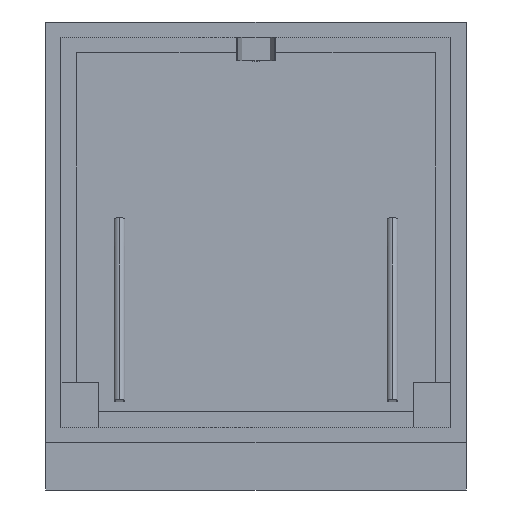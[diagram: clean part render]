
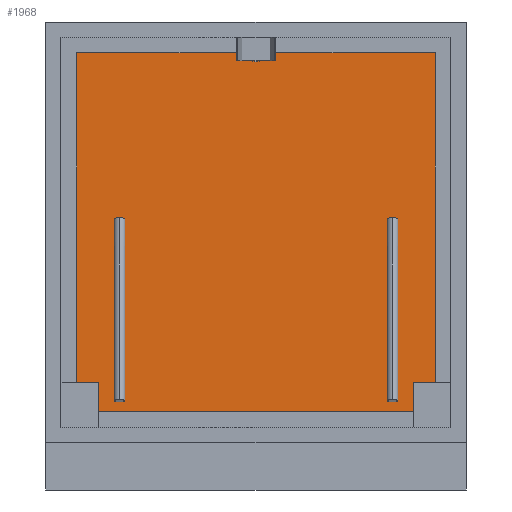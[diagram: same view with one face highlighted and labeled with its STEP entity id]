
A CAD part, front view. The second image highlights one B-rep face of the part: STEP entity #1968.
In plain terms, the highlighted planar face has unit normal (0, -1, 0).
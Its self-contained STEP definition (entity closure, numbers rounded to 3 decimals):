
#304=DIRECTION('',(0.,0.,-1.));
#305=VECTOR('',#304,75.);
#306=CARTESIAN_POINT('',(-405.,-86.,-385.));
#307=LINE('',#306,#305);
#380=DIRECTION('',(-1.,0.,0.));
#381=VECTOR('',#380,55.);
#382=CARTESIAN_POINT('',(-405.,-86.,-385.));
#383=LINE('',#382,#381);
#400=CARTESIAN_POINT('',(0.,-86.,465.));
#401=DIRECTION('',(0.,1.,0.));
#402=DIRECTION('',(0.984,0.,-0.179));
#403=AXIS2_PLACEMENT_3D('',#400,#401,#402);
#405=DIRECTION('',(-1.,0.,0.));
#406=VECTOR('',#405,432.45);
#407=CARTESIAN_POINT('',(460.,-86.,460.));
#408=LINE('',#407,#406);
#409=DIRECTION('',(0.,0.,1.));
#410=VECTOR('',#409,845.);
#411=CARTESIAN_POINT('',(460.,-86.,-385.));
#412=LINE('',#411,#410);
#413=DIRECTION('',(1.,0.,0.));
#414=VECTOR('',#413,810.);
#415=CARTESIAN_POINT('',(-405.,-86.,-460.));
#416=LINE('',#415,#414);
#417=DIRECTION('',(0.,0.,-1.));
#418=VECTOR('',#417,845.);
#419=CARTESIAN_POINT('',(-460.,-86.,460.));
#420=LINE('',#419,#418);
#421=DIRECTION('',(-1.,0.,0.));
#422=VECTOR('',#421,432.45);
#423=CARTESIAN_POINT('',(-27.55,-86.,460.));
#424=LINE('',#423,#422);
#425=CARTESIAN_POINT('',(-337.403,-86.,33.255));
#426=CARTESIAN_POINT('',(-337.595,-86.,31.137));
#427=CARTESIAN_POINT('',(-338.022,-86.,26.946));
#428=CARTESIAN_POINT('',(-338.801,-86.,20.812));
#429=CARTESIAN_POINT('',(-339.735,-86.,14.847));
#430=CARTESIAN_POINT('',(-340.666,-86.,10.044));
#431=CARTESIAN_POINT('',(-341.527,-86.,6.329));
#432=CARTESIAN_POINT('',(-342.24,-86.,3.616));
#433=CARTESIAN_POINT('',(-343.033,-86.,0.991));
#434=CARTESIAN_POINT('',(-343.925,-86.,-1.526));
#435=CARTESIAN_POINT('',(-344.774,-86.,-3.507));
#436=CARTESIAN_POINT('',(-345.545,-86.,-4.992));
#437=CARTESIAN_POINT('',(-346.179,-86.,-6.044));
#438=CARTESIAN_POINT('',(-346.887,-86.,-7.016));
#439=CARTESIAN_POINT('',(-347.695,-86.,-7.878));
#440=CARTESIAN_POINT('',(-348.493,-86.,-8.459));
#441=CARTESIAN_POINT('',(-349.272,-86.,-8.771));
#442=CARTESIAN_POINT('',(-349.734,-86.,-8.847));
#443=CARTESIAN_POINT('',(-350.,-86.,-8.847));
#445=DIRECTION('',(1.,0.,0.));
#446=VECTOR('',#445,25.194);
#447=CARTESIAN_POINT('',(-362.597,-86.,33.255));
#448=LINE('',#447,#446);
#449=CARTESIAN_POINT('',(-350.,-86.,-8.847));
#450=CARTESIAN_POINT('',(-350.266,-86.,-8.847));
#451=CARTESIAN_POINT('',(-350.728,-86.,-8.771));
#452=CARTESIAN_POINT('',(-351.507,-86.,-8.459));
#453=CARTESIAN_POINT('',(-352.305,-86.,-7.878));
#454=CARTESIAN_POINT('',(-353.113,-86.,-7.016));
#455=CARTESIAN_POINT('',(-353.821,-86.,-6.044));
#456=CARTESIAN_POINT('',(-354.455,-86.,-4.992));
#457=CARTESIAN_POINT('',(-355.226,-86.,-3.507));
#458=CARTESIAN_POINT('',(-356.075,-86.,-1.526));
#459=CARTESIAN_POINT('',(-356.967,-86.,0.991));
#460=CARTESIAN_POINT('',(-357.76,-86.,3.616));
#461=CARTESIAN_POINT('',(-358.473,-86.,6.329));
#462=CARTESIAN_POINT('',(-359.334,-86.,10.044));
#463=CARTESIAN_POINT('',(-360.265,-86.,14.847));
#464=CARTESIAN_POINT('',(-361.199,-86.,20.812));
#465=CARTESIAN_POINT('',(-361.978,-86.,26.946));
#466=CARTESIAN_POINT('',(-362.405,-86.,31.137));
#467=CARTESIAN_POINT('',(-362.597,-86.,33.255));
#469=CARTESIAN_POINT('',(337.403,-86.,33.255));
#470=CARTESIAN_POINT('',(337.595,-86.,31.137));
#471=CARTESIAN_POINT('',(338.022,-86.,26.946));
#472=CARTESIAN_POINT('',(338.801,-86.,20.812));
#473=CARTESIAN_POINT('',(339.735,-86.,14.847));
#474=CARTESIAN_POINT('',(340.666,-86.,10.044));
#475=CARTESIAN_POINT('',(341.527,-86.,6.329));
#476=CARTESIAN_POINT('',(342.24,-86.,3.616));
#477=CARTESIAN_POINT('',(343.033,-86.,0.991));
#478=CARTESIAN_POINT('',(343.925,-86.,-1.526));
#479=CARTESIAN_POINT('',(344.774,-86.,-3.507));
#480=CARTESIAN_POINT('',(345.545,-86.,-4.992));
#481=CARTESIAN_POINT('',(346.179,-86.,-6.044));
#482=CARTESIAN_POINT('',(346.887,-86.,-7.016));
#483=CARTESIAN_POINT('',(347.695,-86.,-7.878));
#484=CARTESIAN_POINT('',(348.493,-86.,-8.459));
#485=CARTESIAN_POINT('',(349.272,-86.,-8.771));
#486=CARTESIAN_POINT('',(349.734,-86.,-8.847));
#487=CARTESIAN_POINT('',(350.,-86.,-8.847));
#489=CARTESIAN_POINT('',(350.,-86.,-8.847));
#490=CARTESIAN_POINT('',(350.266,-86.,-8.847));
#491=CARTESIAN_POINT('',(350.728,-86.,-8.771));
#492=CARTESIAN_POINT('',(351.507,-86.,-8.459));
#493=CARTESIAN_POINT('',(352.305,-86.,-7.878));
#494=CARTESIAN_POINT('',(353.113,-86.,-7.016));
#495=CARTESIAN_POINT('',(353.821,-86.,-6.044));
#496=CARTESIAN_POINT('',(354.455,-86.,-4.992));
#497=CARTESIAN_POINT('',(355.226,-86.,-3.507));
#498=CARTESIAN_POINT('',(356.075,-86.,-1.526));
#499=CARTESIAN_POINT('',(356.967,-86.,0.991));
#500=CARTESIAN_POINT('',(357.76,-86.,3.616));
#501=CARTESIAN_POINT('',(358.473,-86.,6.329));
#502=CARTESIAN_POINT('',(359.334,-86.,10.044));
#503=CARTESIAN_POINT('',(360.265,-86.,14.847));
#504=CARTESIAN_POINT('',(361.199,-86.,20.812));
#505=CARTESIAN_POINT('',(361.978,-86.,26.946));
#506=CARTESIAN_POINT('',(362.405,-86.,31.137));
#507=CARTESIAN_POINT('',(362.597,-86.,33.255));
#509=DIRECTION('',(-1.,0.,0.));
#510=VECTOR('',#509,25.194);
#511=CARTESIAN_POINT('',(362.597,-86.,33.255));
#512=LINE('',#511,#510);
#533=DIRECTION('',(1.,0.,0.));
#534=VECTOR('',#533,55.);
#535=CARTESIAN_POINT('',(405.,-86.,-385.));
#536=LINE('',#535,#534);
#798=DIRECTION('',(0.,0.,-1.));
#799=VECTOR('',#798,75.);
#800=CARTESIAN_POINT('',(405.,-86.,-385.));
#801=LINE('',#800,#799);
#1329=CARTESIAN_POINT('',(27.55,-86.,460.));
#1330=CARTESIAN_POINT('',(-27.55,-86.,460.));
#1331=VERTEX_POINT('',#1329);
#1332=VERTEX_POINT('',#1330);
#1413=CARTESIAN_POINT('',(-350.,-86.,-8.847));
#1414=VERTEX_POINT('',#1413);
#1421=CARTESIAN_POINT('',(350.,-86.,-8.847));
#1422=VERTEX_POINT('',#1421);
#1423=VERTEX_POINT('',#425);
#1424=VERTEX_POINT('',#467);
#1425=VERTEX_POINT('',#469);
#1426=VERTEX_POINT('',#507);
#1435=CARTESIAN_POINT('',(-460.,-86.,460.));
#1436=CARTESIAN_POINT('',(-460.,-86.,-385.));
#1437=VERTEX_POINT('',#1435);
#1438=VERTEX_POINT('',#1436);
#1439=CARTESIAN_POINT('',(-405.,-86.,-460.));
#1440=CARTESIAN_POINT('',(405.,-86.,-460.));
#1441=VERTEX_POINT('',#1439);
#1442=VERTEX_POINT('',#1440);
#1443=CARTESIAN_POINT('',(460.,-86.,-385.));
#1444=CARTESIAN_POINT('',(460.,-86.,460.));
#1445=VERTEX_POINT('',#1443);
#1446=VERTEX_POINT('',#1444);
#1463=CARTESIAN_POINT('',(-405.,-86.,-385.));
#1464=VERTEX_POINT('',#1463);
#1465=CARTESIAN_POINT('',(405.,-86.,-385.));
#1466=VERTEX_POINT('',#1465);
#1928=CARTESIAN_POINT('',(0.,-86.,0.));
#1929=DIRECTION('',(0.,-1.,0.));
#1930=DIRECTION('',(1.,0.,0.));
#1931=AXIS2_PLACEMENT_3D('',#1928,#1929,#1930);
#1932=PLANE('',#1931);
#1934=ORIENTED_EDGE('',*,*,#1933,.F.);
#1936=ORIENTED_EDGE('',*,*,#1935,.F.);
#1938=ORIENTED_EDGE('',*,*,#1937,.F.);
#1940=ORIENTED_EDGE('',*,*,#1939,.F.);
#1942=ORIENTED_EDGE('',*,*,#1941,.T.);
#1944=ORIENTED_EDGE('',*,*,#1943,.F.);
#1945=ORIENTED_EDGE('',*,*,#1755,.F.);
#1946=ORIENTED_EDGE('',*,*,#1877,.T.);
#1947=ORIENTED_EDGE('',*,*,#1919,.F.);
#1949=ORIENTED_EDGE('',*,*,#1948,.F.);
#1950=EDGE_LOOP('',(#1934,#1936,#1938,#1940,#1942,#1944,#1945,#1946,#1947,
#1949));
#1951=FACE_OUTER_BOUND('',#1950,.F.);
#1953=ORIENTED_EDGE('',*,*,#1952,.F.);
#1955=ORIENTED_EDGE('',*,*,#1954,.F.);
#1957=ORIENTED_EDGE('',*,*,#1956,.F.);
#1958=EDGE_LOOP('',(#1953,#1955,#1957));
#1959=FACE_BOUND('',#1958,.F.);
#1961=ORIENTED_EDGE('',*,*,#1960,.T.);
#1963=ORIENTED_EDGE('',*,*,#1962,.T.);
#1965=ORIENTED_EDGE('',*,*,#1964,.T.);
#1966=EDGE_LOOP('',(#1961,#1963,#1965));
#1967=FACE_BOUND('',#1966,.F.);
#404=CIRCLE('',#403,28.);
#444=B_SPLINE_CURVE_WITH_KNOTS('',3,(#425,#426,#427,#428,#429,#430,#431,#432,
#433,#434,#435,#436,#437,#438,#439,#440,#441,#442,#443),.UNSPECIFIED.,.F.,.F.,
(4,1,1,1,1,1,1,1,1,1,1,1,1,1,1,1,4),(0.,0.125,0.25,0.375,0.5,0.563,
0.625,0.688,0.75,0.813,0.844,0.875,0.906,0.938,0.969,
0.984,1.),.UNSPECIFIED.);
#468=B_SPLINE_CURVE_WITH_KNOTS('',3,(#449,#450,#451,#452,#453,#454,#455,#456,
#457,#458,#459,#460,#461,#462,#463,#464,#465,#466,#467),.UNSPECIFIED.,.F.,.F.,
(4,1,1,1,1,1,1,1,1,1,1,1,1,1,1,1,4),(0.,0.016,0.031,0.063,0.094,
0.125,0.156,0.188,0.25,0.313,0.375,0.438,0.5,0.625,
0.75,0.875,1.),.UNSPECIFIED.);
#488=B_SPLINE_CURVE_WITH_KNOTS('',3,(#469,#470,#471,#472,#473,#474,#475,#476,
#477,#478,#479,#480,#481,#482,#483,#484,#485,#486,#487),.UNSPECIFIED.,.F.,.F.,
(4,1,1,1,1,1,1,1,1,1,1,1,1,1,1,1,4),(0.,0.125,0.25,0.375,0.5,0.563,
0.625,0.688,0.75,0.813,0.844,0.875,0.906,0.938,0.969,
0.984,1.),.UNSPECIFIED.);
#508=B_SPLINE_CURVE_WITH_KNOTS('',3,(#489,#490,#491,#492,#493,#494,#495,#496,
#497,#498,#499,#500,#501,#502,#503,#504,#505,#506,#507),.UNSPECIFIED.,.F.,.F.,
(4,1,1,1,1,1,1,1,1,1,1,1,1,1,1,1,4),(0.,0.016,0.031,0.063,0.094,
0.125,0.156,0.188,0.25,0.313,0.375,0.438,0.5,0.625,
0.75,0.875,1.),.UNSPECIFIED.);
#1755=EDGE_CURVE('',#1464,#1441,#307,.T.);
#1877=EDGE_CURVE('',#1464,#1438,#383,.T.);
#1919=EDGE_CURVE('',#1437,#1438,#420,.T.);
#1933=EDGE_CURVE('',#1331,#1332,#404,.T.);
#1935=EDGE_CURVE('',#1446,#1331,#408,.T.);
#1937=EDGE_CURVE('',#1445,#1446,#412,.T.);
#1939=EDGE_CURVE('',#1466,#1445,#536,.T.);
#1941=EDGE_CURVE('',#1466,#1442,#801,.T.);
#1943=EDGE_CURVE('',#1441,#1442,#416,.T.);
#1948=EDGE_CURVE('',#1332,#1437,#424,.T.);
#1952=EDGE_CURVE('',#1423,#1414,#444,.T.);
#1954=EDGE_CURVE('',#1424,#1423,#448,.T.);
#1956=EDGE_CURVE('',#1414,#1424,#468,.T.);
#1960=EDGE_CURVE('',#1425,#1422,#488,.T.);
#1962=EDGE_CURVE('',#1422,#1426,#508,.T.);
#1964=EDGE_CURVE('',#1426,#1425,#512,.T.);
#1968=ADVANCED_FACE('',(#1951,#1959,#1967),#1932,.T.);
